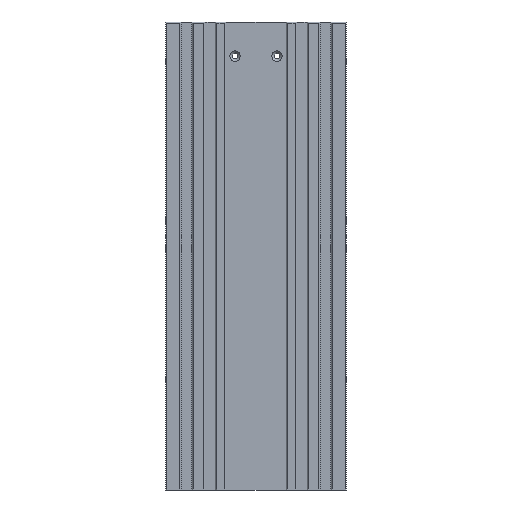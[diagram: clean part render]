
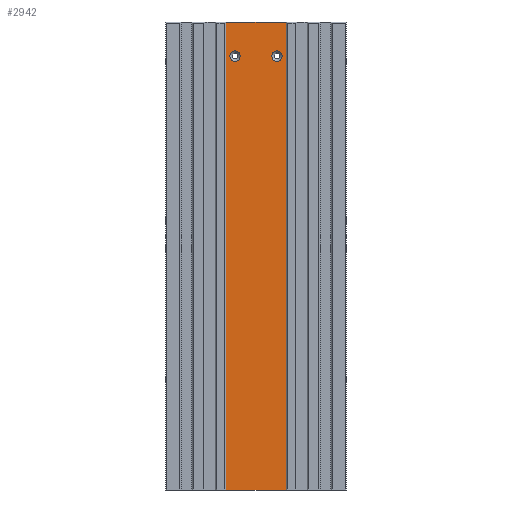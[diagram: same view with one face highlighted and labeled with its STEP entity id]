
A CAD part, front view. The second image highlights one B-rep face of the part: STEP entity #2942.
In plain terms, the highlighted planar face has unit normal (0, -1, 0).
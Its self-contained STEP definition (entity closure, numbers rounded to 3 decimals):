
#9 = EDGE_LOOP ( 'NONE', ( #2098, #887, #1887, #1756 ) ) ;
#16 = AXIS2_PLACEMENT_3D ( 'NONE', #2116, #418, #666 ) ;
#66 = CARTESIAN_POINT ( 'NONE',  ( -65., 24.5, -4.5 ) ) ;
#222 = EDGE_LOOP ( 'NONE', ( #667, #1127 ) ) ;
#225 = DIRECTION ( 'NONE',  ( 0., 0., 1. ) ) ;
#358 = EDGE_CURVE ( 'NONE', #3111, #1301, #929, .T. ) ;
#408 = VECTOR ( 'NONE', #2610, 1000. ) ;
#418 = DIRECTION ( 'NONE',  ( 0., -1., 0. ) ) ;
#447 = ORIENTED_EDGE ( 'NONE', *, *, #358, .F. ) ;
#482 = CARTESIAN_POINT ( 'NONE',  ( -65., 24.5, 174. ) ) ;
#488 = CARTESIAN_POINT ( 'NONE',  ( -45.5, 24.5, 159. ) ) ;
#506 = CARTESIAN_POINT ( 'NONE',  ( -42., 24.5, 12.5 ) ) ;
#624 = EDGE_LOOP ( 'NONE', ( #2440, #447 ) ) ;
#666 = DIRECTION ( 'NONE',  ( 0., 0., 1. ) ) ;
#667 = ORIENTED_EDGE ( 'NONE', *, *, #920, .F. ) ;
#698 = EDGE_CURVE ( 'NONE', #1488, #3146, #3097, .T. ) ;
#709 = VERTEX_POINT ( 'NONE', #2643 ) ;
#711 = EDGE_CURVE ( 'NONE', #1301, #3111, #1012, .T. ) ;
#763 = FACE_BOUND ( 'NONE', #624, .T. ) ;
#787 = DIRECTION ( 'NONE',  ( 0., 0., -1. ) ) ;
#842 = CARTESIAN_POINT ( 'NONE',  ( -61.5, 24.5, 161. ) ) ;
#874 = CARTESIAN_POINT ( 'NONE',  ( -61.5, 24.5, 159. ) ) ;
#882 = CARTESIAN_POINT ( 'NONE',  ( -61.5, 24.5, 163. ) ) ;
#887 = ORIENTED_EDGE ( 'NONE', *, *, #1083, .F. ) ;
#920 = EDGE_CURVE ( 'NONE', #3146, #1488, #970, .T. ) ;
#929 = CIRCLE ( 'NONE', #16, 2. ) ;
#970 = CIRCLE ( 'NONE', #2685, 2. ) ;
#1012 = CIRCLE ( 'NONE', #2920, 2. ) ;
#1043 = CARTESIAN_POINT ( 'NONE',  ( -65., 24.5, 174. ) ) ;
#1083 = EDGE_CURVE ( 'NONE', #2254, #1165, #3063, .T. ) ;
#1094 = DIRECTION ( 'NONE',  ( 0., 0., 1. ) ) ;
#1127 = ORIENTED_EDGE ( 'NONE', *, *, #698, .F. ) ;
#1152 = CARTESIAN_POINT ( 'NONE',  ( -42., 24.5, 174. ) ) ;
#1165 = VERTEX_POINT ( 'NONE', #1152 ) ;
#1180 = AXIS2_PLACEMENT_3D ( 'NONE', #2645, #2421, #2656 ) ;
#1197 = VERTEX_POINT ( 'NONE', #66 ) ;
#1301 = VERTEX_POINT ( 'NONE', #488 ) ;
#1352 = FACE_BOUND ( 'NONE', #222, .T. ) ;
#1442 = CARTESIAN_POINT ( 'NONE',  ( -61.5, 24.5, 161. ) ) ;
#1453 = CARTESIAN_POINT ( 'NONE',  ( -45.5, 24.5, 161. ) ) ;
#1488 = VERTEX_POINT ( 'NONE', #882 ) ;
#1551 = LINE ( 'NONE', #506, #408 ) ;
#1690 = DIRECTION ( 'NONE',  ( 0., -1., 0. ) ) ;
#1721 = EDGE_CURVE ( 'NONE', #2254, #1197, #2940, .T. ) ;
#1732 = VECTOR ( 'NONE', #787, 1000. ) ;
#1756 = ORIENTED_EDGE ( 'NONE', *, *, #2074, .F. ) ;
#1770 = VECTOR ( 'NONE', #2482, 1000. ) ;
#1841 = DIRECTION ( 'NONE',  ( 0., 0., 1. ) ) ;
#1865 = LINE ( 'NONE', #2050, #2571 ) ;
#1887 = ORIENTED_EDGE ( 'NONE', *, *, #1721, .T. ) ;
#1976 = FACE_OUTER_BOUND ( 'NONE', #9, .T. ) ;
#2050 = CARTESIAN_POINT ( 'NONE',  ( -43., 24.5, -4.5 ) ) ;
#2074 = EDGE_CURVE ( 'NONE', #709, #1197, #1865, .T. ) ;
#2098 = ORIENTED_EDGE ( 'NONE', *, *, #2422, .T. ) ;
#2116 = CARTESIAN_POINT ( 'NONE',  ( -45.5, 24.5, 161. ) ) ;
#2140 = DIRECTION ( 'NONE',  ( -1., 0., 0. ) ) ;
#2232 = CARTESIAN_POINT ( 'NONE',  ( -65., 24.5, 12.5 ) ) ;
#2254 = VERTEX_POINT ( 'NONE', #482 ) ;
#2421 = DIRECTION ( 'NONE',  ( 0., -1., 0. ) ) ;
#2422 = EDGE_CURVE ( 'NONE', #709, #1165, #1551, .T. ) ;
#2440 = ORIENTED_EDGE ( 'NONE', *, *, #711, .F. ) ;
#2482 = DIRECTION ( 'NONE',  ( 1., 0., 0. ) ) ;
#2531 = DIRECTION ( 'NONE',  ( 0., -1., 0. ) ) ;
#2571 = VECTOR ( 'NONE', #2140, 1000. ) ;
#2593 = AXIS2_PLACEMENT_3D ( 'NONE', #1442, #1690, #225 ) ;
#2610 = DIRECTION ( 'NONE',  ( 0., 0., 1. ) ) ;
#2643 = CARTESIAN_POINT ( 'NONE',  ( -42., 24.5, -4.5 ) ) ;
#2645 = CARTESIAN_POINT ( 'NONE',  ( 0., 24.5, 0. ) ) ;
#2656 = DIRECTION ( 'NONE',  ( 0., 0., -1. ) ) ;
#2685 = AXIS2_PLACEMENT_3D ( 'NONE', #842, #2531, #1094 ) ;
#2920 = AXIS2_PLACEMENT_3D ( 'NONE', #1453, #3147, #1841 ) ;
#2940 = LINE ( 'NONE', #2232, #1732 ) ;
#2942 = ADVANCED_FACE ( 'NONE', ( #1976, #763, #1352 ), #2973, .T. ) ;
#2973 = PLANE ( 'NONE',  #1180 ) ;
#3008 = CARTESIAN_POINT ( 'NONE',  ( -45.5, 24.5, 163. ) ) ;
#3063 = LINE ( 'NONE', #1043, #1770 ) ;
#3097 = CIRCLE ( 'NONE', #2593, 2. ) ;
#3111 = VERTEX_POINT ( 'NONE', #3008 ) ;
#3146 = VERTEX_POINT ( 'NONE', #874 ) ;
#3147 = DIRECTION ( 'NONE',  ( 0., -1., 0. ) ) ;
